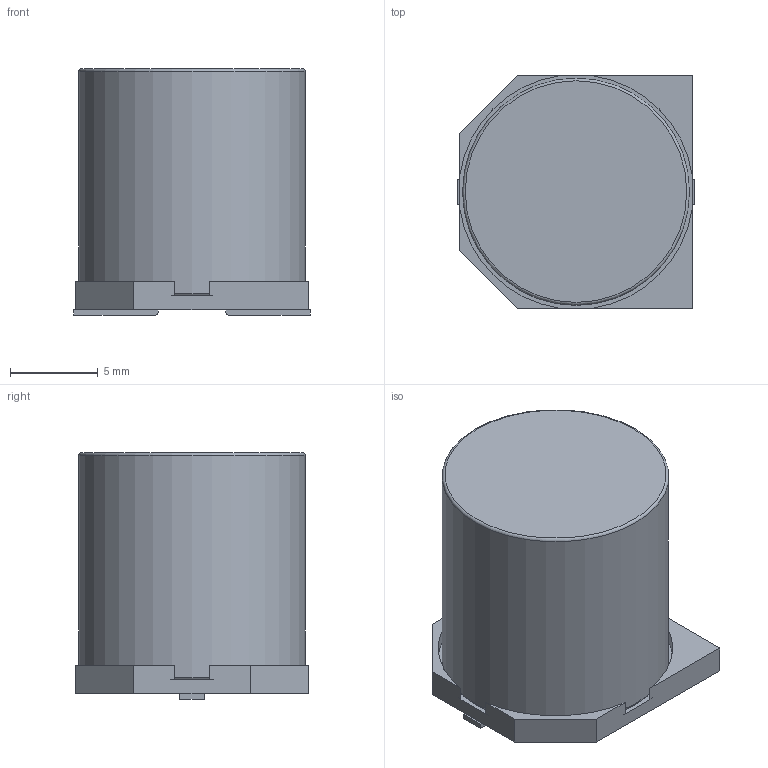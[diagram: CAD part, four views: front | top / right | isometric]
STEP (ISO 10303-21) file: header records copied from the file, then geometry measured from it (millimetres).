
FILE_DESCRIPTION(('FreeCAD Model'),'2;1');
FILE_NAME('/var/www/3D/0T/467691.1.1.stp','2023-04-07T06:24:03',( 'Author'),(''),'Open CASCADE STEP processor 6.9','FreeCAD','Unknown' );
FILE_SCHEMA(('AUTOMOTIVE_DESIGN { 1 0 10303 214 1 1 1 1 }'));
Length unit declared in the file: millimetre
Products named in the file (5): ASSEMBLY; Base; Pin1Fillet; Pin2Fillet; Fillet
Assembly tree (4 placements, depth 2):
  ASSEMBLY
    Base
    Pin1Fillet
    Pin2Fillet
    Fillet
Bounding box: 13.45 x 13.2 x 14 mm (x, y, z)
Volume: 1839.3 mm3; surface area: 1238.8 mm2
Topology: 4 solids, 4 shells, 35 faces, 79 edges, 52 vertices
Faces by surface type: plane 26, cylinder 7, torus 2
Full cylindrical faces by diameter (mm): 12.9 x1
Entity records: 2098 total; most frequent: CARTESIAN_POINT 369, DIRECTION 305, LINE 177, VECTOR 177, ORIENTED_EDGE 158, PCURVE 158, DEFINITIONAL_REPRESENTATION 158, EDGE_CURVE 79
